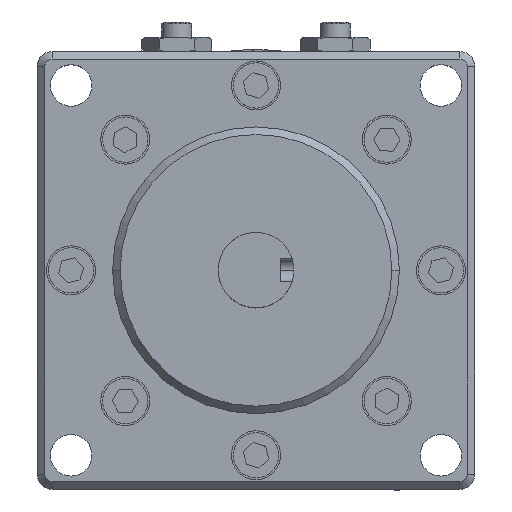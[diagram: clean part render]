
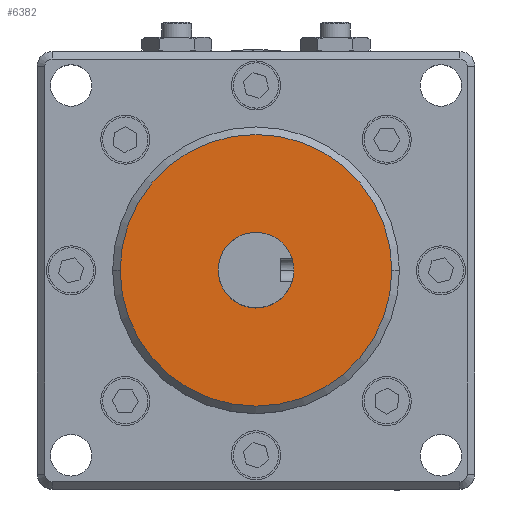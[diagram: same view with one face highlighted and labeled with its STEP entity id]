
A CAD part, top view. The second image highlights one B-rep face of the part: STEP entity #6382.
In plain terms, the highlighted planar face has unit normal (0, 0, 1).
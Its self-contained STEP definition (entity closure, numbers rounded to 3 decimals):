
#341 = AXIS2_PLACEMENT_3D ( 'NONE', #823, #11263, #12292 ) ;
#582 = FACE_BOUND ( 'NONE', #2576, .T. ) ;
#661 = CIRCLE ( 'NONE', #10041, 18. ) ;
#757 = CARTESIAN_POINT ( 'NONE',  ( 5., 0., 10. ) ) ;
#823 = CARTESIAN_POINT ( 'NONE',  ( 0., 0., 10. ) ) ;
#904 = DIRECTION ( 'NONE',  ( 1., 0., 0. ) ) ;
#1391 = AXIS2_PLACEMENT_3D ( 'NONE', #2578, #8781, #8969 ) ;
#1586 = ORIENTED_EDGE ( 'NONE', *, *, #10283, .F. ) ;
#1645 = CARTESIAN_POINT ( 'NONE',  ( 0., 0., 10. ) ) ;
#1837 = VERTEX_POINT ( 'NONE', #6140 ) ;
#1974 = CARTESIAN_POINT ( 'NONE',  ( 0., 0., 10. ) ) ;
#2105 = DIRECTION ( 'NONE',  ( 1., 0., 0. ) ) ;
#2384 = EDGE_CURVE ( 'NONE', #6698, #13073, #10727, .T. ) ;
#2576 = EDGE_LOOP ( 'NONE', ( #1586, #11081 ) ) ;
#2578 = CARTESIAN_POINT ( 'NONE',  ( 0., 0., 10. ) ) ;
#3390 = CARTESIAN_POINT ( 'NONE',  ( 18., 0., 10. ) ) ;
#3855 = ORIENTED_EDGE ( 'NONE', *, *, #8759, .T. ) ;
#4802 = DIRECTION ( 'NONE',  ( 0., 0., 1. ) ) ;
#4864 = CARTESIAN_POINT ( 'NONE',  ( 0., 0., 10. ) ) ;
#5186 = DIRECTION ( 'NONE',  ( 0., 0., 1. ) ) ;
#5419 = ORIENTED_EDGE ( 'NONE', *, *, #12535, .T. ) ;
#6140 = CARTESIAN_POINT ( 'NONE',  ( -18., 0., 10. ) ) ;
#6247 = DIRECTION ( 'NONE',  ( 0., 0., 1. ) ) ;
#6349 = EDGE_LOOP ( 'NONE', ( #3855, #5419 ) ) ;
#6370 = CIRCLE ( 'NONE', #1391, 5. ) ;
#6382 = ADVANCED_FACE ( 'NONE', ( #11756, #582 ), #6943, .T. ) ;
#6698 = VERTEX_POINT ( 'NONE', #8322 ) ;
#6943 = PLANE ( 'NONE',  #12137 ) ;
#7173 = VERTEX_POINT ( 'NONE', #3390 ) ;
#8322 = CARTESIAN_POINT ( 'NONE',  ( -5., 0., 10. ) ) ;
#8759 = EDGE_CURVE ( 'NONE', #1837, #7173, #11259, .T. ) ;
#8781 = DIRECTION ( 'NONE',  ( 0., 0., 1. ) ) ;
#8969 = DIRECTION ( 'NONE',  ( 1., 0., 0. ) ) ;
#10041 = AXIS2_PLACEMENT_3D ( 'NONE', #1974, #6247, #2105 ) ;
#10152 = DIRECTION ( 'NONE',  ( 1., 0., 0. ) ) ;
#10283 = EDGE_CURVE ( 'NONE', #13073, #6698, #6370, .T. ) ;
#10727 = CIRCLE ( 'NONE', #11390, 5. ) ;
#11081 = ORIENTED_EDGE ( 'NONE', *, *, #2384, .F. ) ;
#11259 = CIRCLE ( 'NONE', #341, 18. ) ;
#11263 = DIRECTION ( 'NONE',  ( 0., 0., 1. ) ) ;
#11390 = AXIS2_PLACEMENT_3D ( 'NONE', #1645, #4802, #10152 ) ;
#11756 = FACE_OUTER_BOUND ( 'NONE', #6349, .T. ) ;
#12137 = AXIS2_PLACEMENT_3D ( 'NONE', #4864, #5186, #904 ) ;
#12292 = DIRECTION ( 'NONE',  ( 1., 0., 0. ) ) ;
#12535 = EDGE_CURVE ( 'NONE', #7173, #1837, #661, .T. ) ;
#13073 = VERTEX_POINT ( 'NONE', #757 ) ;
